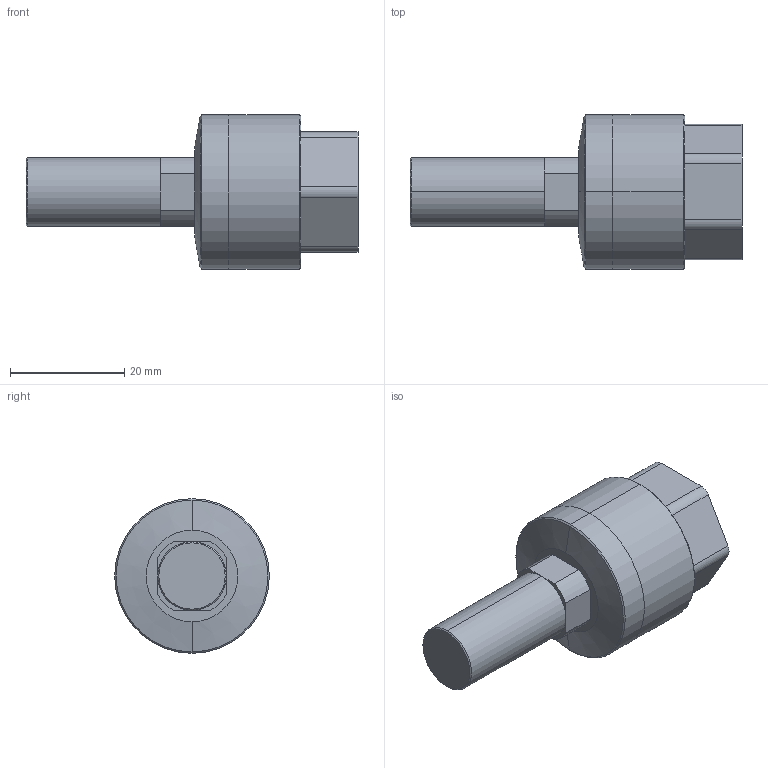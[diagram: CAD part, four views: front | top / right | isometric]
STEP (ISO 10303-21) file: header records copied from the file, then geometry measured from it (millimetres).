
FILE_DESCRIPTION (( 'STEP AP203' ), '1' );
FILE_NAME ('FCM12A-1.25.STEP', '2016-03-23T03:41:28', ( 'Sam Lin' ), ( '' ), 'SwSTEP 2.0', 'SolidWorks 2013', '' );
FILE_SCHEMA (( 'CONFIG_CONTROL_DESIGN' ));
Length unit declared in the file: millimetre
Products named in the file (1): FCM12A-1.25
Bounding box: 58 x 27 x 27 mm (x, y, z)
Volume: 16355 mm3; surface area: 4921.4 mm2
Topology: 1 solids, 1 shells, 46 faces, 108 edges, 65 vertices
Faces by surface type: cylinder 18, plane 18, cone 10
Entity records: 1375 total; most frequent: DIRECTION 244, CARTESIAN_POINT 218, ORIENTED_EDGE 212, EDGE_CURVE 106, AXIS2_PLACEMENT_3D 91, VERTEX_POINT 65, LINE 62, VECTOR 62
